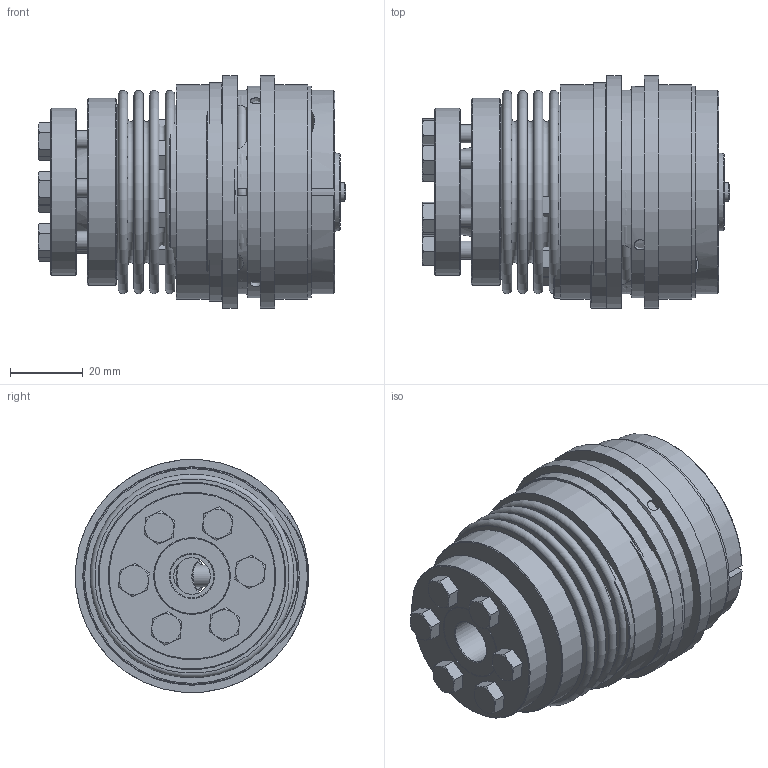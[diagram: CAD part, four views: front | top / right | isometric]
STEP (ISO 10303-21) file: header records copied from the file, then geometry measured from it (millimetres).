
FILE_DESCRIPTION( ( 'Unknown' ), '1' );
FILE_NAME( 'C:/Dokumente und Einstellungen/SKarpstein/Desktop/Korrigierte 3D Modelle/KBK-B-AK/KBK-BAK-30-82.stp', 'Unknown', ( 'Unknown' ), ( 'Unknown' ), 'XStep 1.0', 'Unknown', ' ' );
FILE_SCHEMA( ( 'automotive_design' ) );
Length unit declared in the file: millimetre
Products named in the file (13): Assem1; Assem2; Assem3; Zylinderschraube DIN 912_0_0_0; Hex Screw GradeC_DIN_ISO 4018 - M5 x 16-NN; BA30_Standard; DR30_Standard; Stellring 30_0; Druckring 30_0; L-K-30 Grundkörper_0; Klemmnabe 30_0; Flansch BK30; BK30_Standard_1
Bounding box: 84.45 x 64 x 64 mm (x, y, z)
Volume: 303882.8 mm3; surface area: 168477.3 mm2
Topology: 34 solids, 34 shells, 556 faces, 1173 edges, 749 vertices
Faces by surface type: plane 248, cone 145, cylinder 127, torus 36
Full cylindrical faces by diameter (mm): 3.242 x6, 4.2 x18, 4.917 x2, 5 x13, 5.5 x18, 6 x3, 6.4 x2, 10 x5, 11 x2, 12 x3, 23.9 x2, 24.526 x3, 25 x4, 30 x2, 34 x2, 37 x2, 38 x6, 40 x2, 46 x3, 46.5 x4, 47.3 x4, 51.5 x3, 52 x2, 58 x2, 59 x2, 60 x2, 64 x2
Entity records: 4794 total; most frequent: CARTESIAN_POINT 1155, DIRECTION 712, ORIENTED_EDGE 480, AXIS2_PLACEMENT_3D 331, EDGE_LOOP 318, EDGE_CURVE 240, FACE_OUTER_BOUND 226, VERTEX_POINT 204
